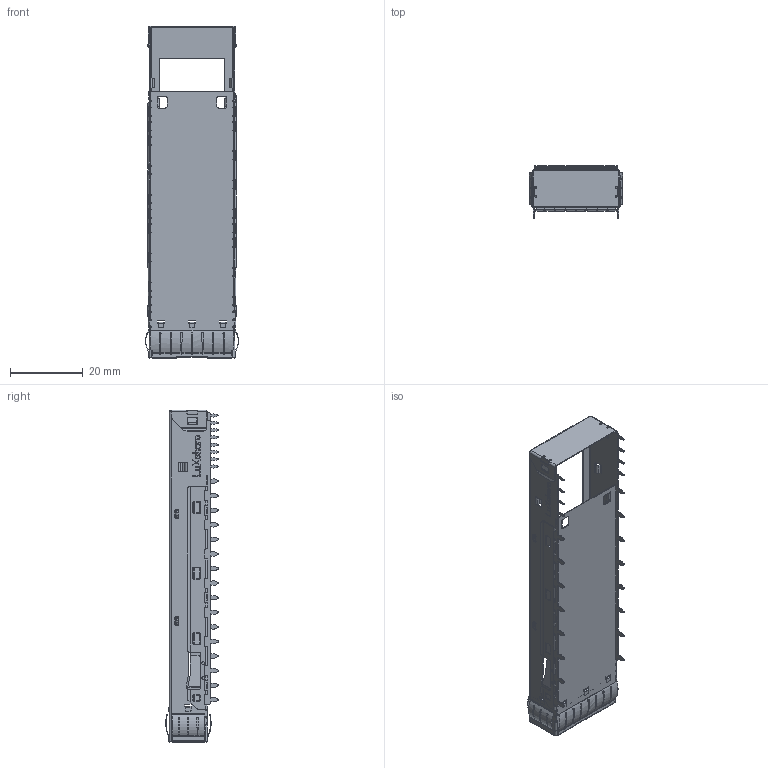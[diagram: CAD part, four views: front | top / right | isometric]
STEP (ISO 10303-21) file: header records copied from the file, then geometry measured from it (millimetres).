
FILE_DESCRIPTION((''),'2;1');
FILE_NAME('OSFP_CAGE_1X1RHS-PRESSFIT_5_1_2','2026-06-26T18:19:42',('39002408'),(''),'CREO PARAMETRIC BY PTC INC, 2019471','CREO PARAMETRIC BY PTC INC, 2019471','');
FILE_SCHEMA(('CONFIG_CONTROL_DESIGN'));
Length unit declared in the file: millimetre
Products named in the file (1): OSFP_CAGE_1X1RHS-PRESSFIT_5_1_2
Bounding box: 25.52 x 14.43 x 91.08 mm (x, y, z)
Volume: 1404 mm3; surface area: 12438.1 mm2
Topology: 1 solids, 1 shells, 2781 faces, 7752 edges, 4807 vertices
Faces by surface type: plane 1429, cylinder 1092, bspline 238, sphere 16, extrusion 6
Entity records: 98576 total; most frequent: CARTESIAN_POINT 27945, ORIENTED_EDGE 15472, DIRECTION 13904, EDGE_CURVE 7736, VECTOR 5128, LINE 5122, VERTEX_POINT 4807, AXIS2_PLACEMENT_3D 4388
